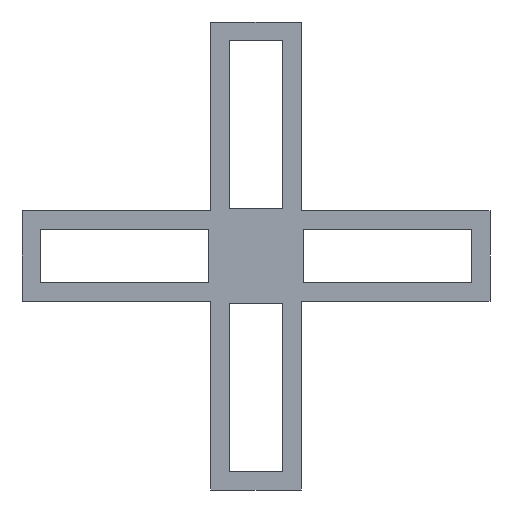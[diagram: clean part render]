
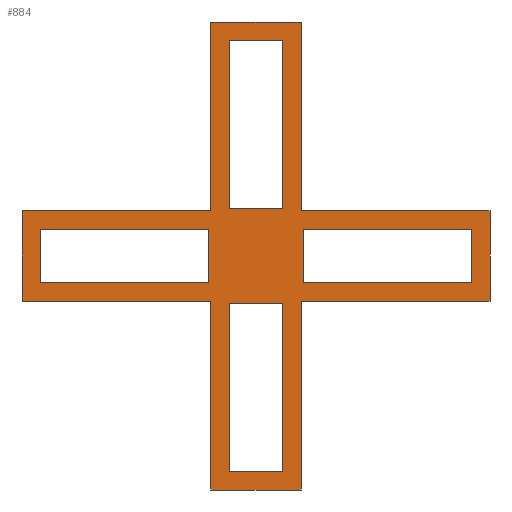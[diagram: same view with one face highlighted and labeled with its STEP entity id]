
A CAD part, front view. The second image highlights one B-rep face of the part: STEP entity #884.
In plain terms, the highlighted planar face has unit normal (0, -1, 0).
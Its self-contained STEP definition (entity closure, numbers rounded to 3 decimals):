
#20=FACE_BOUND('',#115,.T.);
#21=FACE_BOUND('',#116,.T.);
#22=FACE_BOUND('',#117,.T.);
#23=FACE_BOUND('',#118,.T.);
#66=FACE_OUTER_BOUND('',#114,.T.);
#114=EDGE_LOOP('',(#771,#772,#773,#774,#775,#776,#777,#778,#779,#780,#781,
#782));
#115=EDGE_LOOP('',(#783,#784,#785,#786));
#116=EDGE_LOOP('',(#787,#788,#789,#790));
#117=EDGE_LOOP('',(#791,#792,#793,#794));
#118=EDGE_LOOP('',(#795,#796,#797,#798));
#155=LINE('',#1227,#275);
#159=LINE('',#1236,#279);
#163=LINE('',#1244,#283);
#166=LINE('',#1251,#286);
#170=LINE('',#1259,#290);
#173=LINE('',#1265,#293);
#176=LINE('',#1270,#296);
#178=LINE('',#1274,#298);
#181=LINE('',#1280,#301);
#184=LINE('',#1286,#304);
#187=LINE('',#1293,#307);
#191=LINE('',#1301,#311);
#194=LINE('',#1307,#314);
#197=LINE('',#1312,#317);
#199=LINE('',#1316,#319);
#202=LINE('',#1322,#322);
#205=LINE('',#1328,#325);
#208=LINE('',#1335,#328);
#212=LINE('',#1343,#332);
#215=LINE('',#1349,#335);
#218=LINE('',#1354,#338);
#220=LINE('',#1358,#340);
#223=LINE('',#1364,#343);
#226=LINE('',#1370,#346);
#229=LINE('',#1375,#349);
#231=LINE('',#1379,#351);
#234=LINE('',#1385,#354);
#237=LINE('',#1390,#357);
#275=VECTOR('',#1008,10.);
#279=VECTOR('',#1014,10.);
#283=VECTOR('',#1020,10.);
#286=VECTOR('',#1025,10.);
#290=VECTOR('',#1031,10.);
#293=VECTOR('',#1036,10.);
#296=VECTOR('',#1041,10.);
#298=VECTOR('',#1045,10.);
#301=VECTOR('',#1050,10.);
#304=VECTOR('',#1055,10.);
#307=VECTOR('',#1060,10.);
#311=VECTOR('',#1066,10.);
#314=VECTOR('',#1071,10.);
#317=VECTOR('',#1076,10.);
#319=VECTOR('',#1080,10.);
#322=VECTOR('',#1085,10.);
#325=VECTOR('',#1090,10.);
#328=VECTOR('',#1095,10.);
#332=VECTOR('',#1101,10.);
#335=VECTOR('',#1106,10.);
#338=VECTOR('',#1111,10.);
#340=VECTOR('',#1115,10.);
#343=VECTOR('',#1120,10.);
#346=VECTOR('',#1125,10.);
#349=VECTOR('',#1130,10.);
#351=VECTOR('',#1134,10.);
#354=VECTOR('',#1139,10.);
#357=VECTOR('',#1144,10.);
#383=VERTEX_POINT('',#1225);
#384=VERTEX_POINT('',#1226);
#387=VERTEX_POINT('',#1234);
#388=VERTEX_POINT('',#1235);
#391=VERTEX_POINT('',#1243);
#393=VERTEX_POINT('',#1249);
#394=VERTEX_POINT('',#1250);
#397=VERTEX_POINT('',#1258);
#399=VERTEX_POINT('',#1264);
#401=VERTEX_POINT('',#1273);
#403=VERTEX_POINT('',#1279);
#405=VERTEX_POINT('',#1285);
#407=VERTEX_POINT('',#1291);
#408=VERTEX_POINT('',#1292);
#411=VERTEX_POINT('',#1300);
#413=VERTEX_POINT('',#1306);
#415=VERTEX_POINT('',#1315);
#417=VERTEX_POINT('',#1321);
#419=VERTEX_POINT('',#1327);
#421=VERTEX_POINT('',#1333);
#422=VERTEX_POINT('',#1334);
#425=VERTEX_POINT('',#1342);
#427=VERTEX_POINT('',#1348);
#429=VERTEX_POINT('',#1357);
#431=VERTEX_POINT('',#1363);
#433=VERTEX_POINT('',#1369);
#435=VERTEX_POINT('',#1378);
#437=VERTEX_POINT('',#1384);
#475=EDGE_CURVE('',#383,#384,#155,.T.);
#479=EDGE_CURVE('',#387,#388,#159,.T.);
#483=EDGE_CURVE('',#391,#387,#163,.T.);
#486=EDGE_CURVE('',#393,#394,#166,.T.);
#490=EDGE_CURVE('',#397,#393,#170,.T.);
#493=EDGE_CURVE('',#399,#397,#173,.T.);
#496=EDGE_CURVE('',#394,#399,#176,.T.);
#498=EDGE_CURVE('',#401,#391,#178,.T.);
#501=EDGE_CURVE('',#403,#401,#181,.T.);
#504=EDGE_CURVE('',#405,#403,#184,.T.);
#507=EDGE_CURVE('',#407,#408,#187,.T.);
#511=EDGE_CURVE('',#411,#407,#191,.T.);
#514=EDGE_CURVE('',#413,#411,#194,.T.);
#517=EDGE_CURVE('',#408,#413,#197,.T.);
#519=EDGE_CURVE('',#415,#405,#199,.T.);
#522=EDGE_CURVE('',#417,#415,#202,.T.);
#525=EDGE_CURVE('',#419,#417,#205,.T.);
#528=EDGE_CURVE('',#421,#422,#208,.T.);
#532=EDGE_CURVE('',#425,#421,#212,.T.);
#535=EDGE_CURVE('',#427,#425,#215,.T.);
#538=EDGE_CURVE('',#422,#427,#218,.T.);
#540=EDGE_CURVE('',#429,#419,#220,.T.);
#543=EDGE_CURVE('',#431,#429,#223,.T.);
#546=EDGE_CURVE('',#433,#431,#226,.T.);
#549=EDGE_CURVE('',#388,#433,#229,.T.);
#551=EDGE_CURVE('',#435,#383,#231,.T.);
#554=EDGE_CURVE('',#437,#435,#234,.T.);
#557=EDGE_CURVE('',#384,#437,#237,.T.);
#771=ORIENTED_EDGE('',*,*,#549,.F.);
#772=ORIENTED_EDGE('',*,*,#479,.F.);
#773=ORIENTED_EDGE('',*,*,#483,.F.);
#774=ORIENTED_EDGE('',*,*,#498,.F.);
#775=ORIENTED_EDGE('',*,*,#501,.F.);
#776=ORIENTED_EDGE('',*,*,#504,.F.);
#777=ORIENTED_EDGE('',*,*,#519,.F.);
#778=ORIENTED_EDGE('',*,*,#522,.F.);
#779=ORIENTED_EDGE('',*,*,#525,.F.);
#780=ORIENTED_EDGE('',*,*,#540,.F.);
#781=ORIENTED_EDGE('',*,*,#543,.F.);
#782=ORIENTED_EDGE('',*,*,#546,.F.);
#783=ORIENTED_EDGE('',*,*,#551,.F.);
#784=ORIENTED_EDGE('',*,*,#554,.F.);
#785=ORIENTED_EDGE('',*,*,#557,.F.);
#786=ORIENTED_EDGE('',*,*,#475,.F.);
#787=ORIENTED_EDGE('',*,*,#496,.F.);
#788=ORIENTED_EDGE('',*,*,#486,.F.);
#789=ORIENTED_EDGE('',*,*,#490,.F.);
#790=ORIENTED_EDGE('',*,*,#493,.F.);
#791=ORIENTED_EDGE('',*,*,#517,.F.);
#792=ORIENTED_EDGE('',*,*,#507,.F.);
#793=ORIENTED_EDGE('',*,*,#511,.F.);
#794=ORIENTED_EDGE('',*,*,#514,.F.);
#795=ORIENTED_EDGE('',*,*,#538,.F.);
#796=ORIENTED_EDGE('',*,*,#528,.F.);
#797=ORIENTED_EDGE('',*,*,#532,.F.);
#798=ORIENTED_EDGE('',*,*,#535,.F.);
#841=PLANE('',#941);
#884=ADVANCED_FACE('',(#66,#20,#21,#22,#23),#841,.F.);
#941=AXIS2_PLACEMENT_3D('',#1393,#1148,#1149);
#1008=DIRECTION('',(-1.,0.,0.));
#1014=DIRECTION('',(1.,0.,0.));
#1020=DIRECTION('',(0.,0.,-1.));
#1025=DIRECTION('',(0.,0.,1.));
#1031=DIRECTION('',(1.,0.,0.));
#1036=DIRECTION('',(0.,0.,-1.));
#1041=DIRECTION('',(-1.,0.,0.));
#1045=DIRECTION('',(1.,0.,0.));
#1050=DIRECTION('',(0.,0.,1.));
#1055=DIRECTION('',(1.,0.,0.));
#1060=DIRECTION('',(-1.,0.,0.));
#1066=DIRECTION('',(0.,0.,1.));
#1071=DIRECTION('',(1.,0.,0.));
#1076=DIRECTION('',(0.,0.,-1.));
#1080=DIRECTION('',(0.,0.,1.));
#1085=DIRECTION('',(-1.,0.,0.));
#1090=DIRECTION('',(0.,0.,1.));
#1095=DIRECTION('',(0.,0.,-1.));
#1101=DIRECTION('',(-1.,0.,0.));
#1106=DIRECTION('',(0.,0.,1.));
#1111=DIRECTION('',(1.,0.,0.));
#1115=DIRECTION('',(-1.,0.,0.));
#1120=DIRECTION('',(0.,0.,-1.));
#1125=DIRECTION('',(-1.,0.,0.));
#1130=DIRECTION('',(0.,0.,-1.));
#1134=DIRECTION('',(0.,0.,1.));
#1139=DIRECTION('',(1.,0.,0.));
#1144=DIRECTION('',(0.,0.,-1.));
#1148=DIRECTION('center_axis',(0.,1.,0.));
#1149=DIRECTION('ref_axis',(0.,0.,-1.));
#1225=CARTESIAN_POINT('',(12.8,0.,1.6));
#1226=CARTESIAN_POINT('',(2.8,0.,1.6));
#1227=CARTESIAN_POINT('',(12.8,0.,1.6));
#1234=CARTESIAN_POINT('',(2.7,0.,2.7));
#1235=CARTESIAN_POINT('',(13.9,0.,2.7));
#1236=CARTESIAN_POINT('',(2.7,0.,2.7));
#1243=CARTESIAN_POINT('',(2.7,0.,13.9));
#1244=CARTESIAN_POINT('',(2.7,0.,13.9));
#1249=CARTESIAN_POINT('',(1.6,0.,2.8));
#1250=CARTESIAN_POINT('',(1.6,0.,12.8));
#1251=CARTESIAN_POINT('',(1.6,0.,2.8));
#1258=CARTESIAN_POINT('',(-1.6,0.,2.8));
#1259=CARTESIAN_POINT('',(-1.6,0.,2.8));
#1264=CARTESIAN_POINT('',(-1.6,0.,12.8));
#1265=CARTESIAN_POINT('',(-1.6,0.,12.8));
#1270=CARTESIAN_POINT('',(0.,0.,12.8));
#1273=CARTESIAN_POINT('',(-2.7,0.,13.9));
#1274=CARTESIAN_POINT('',(-2.7,0.,13.9));
#1279=CARTESIAN_POINT('',(-2.7,0.,2.7));
#1280=CARTESIAN_POINT('',(-2.7,0.,2.7));
#1285=CARTESIAN_POINT('',(-13.9,0.,2.7));
#1286=CARTESIAN_POINT('',(-13.9,0.,2.7));
#1291=CARTESIAN_POINT('',(-2.8,0.,1.6));
#1292=CARTESIAN_POINT('',(-12.8,0.,1.6));
#1293=CARTESIAN_POINT('',(-2.8,0.,1.6));
#1300=CARTESIAN_POINT('',(-2.8,0.,-1.6));
#1301=CARTESIAN_POINT('',(-2.8,0.,-1.6));
#1306=CARTESIAN_POINT('',(-12.8,0.,-1.6));
#1307=CARTESIAN_POINT('',(-12.8,0.,-1.6));
#1312=CARTESIAN_POINT('',(-12.8,0.,0.));
#1315=CARTESIAN_POINT('',(-13.9,0.,-2.7));
#1316=CARTESIAN_POINT('',(-13.9,0.,-2.7));
#1321=CARTESIAN_POINT('',(-2.7,0.,-2.7));
#1322=CARTESIAN_POINT('',(-2.7,0.,-2.7));
#1327=CARTESIAN_POINT('',(-2.7,0.,-13.9));
#1328=CARTESIAN_POINT('',(-2.7,0.,-13.9));
#1333=CARTESIAN_POINT('',(-1.6,0.,-2.8));
#1334=CARTESIAN_POINT('',(-1.6,0.,-12.8));
#1335=CARTESIAN_POINT('',(-1.6,0.,-2.8));
#1342=CARTESIAN_POINT('',(1.6,0.,-2.8));
#1343=CARTESIAN_POINT('',(1.6,0.,-2.8));
#1348=CARTESIAN_POINT('',(1.6,0.,-12.8));
#1349=CARTESIAN_POINT('',(1.6,0.,-12.8));
#1354=CARTESIAN_POINT('',(0.,0.,-12.8));
#1357=CARTESIAN_POINT('',(2.7,0.,-13.9));
#1358=CARTESIAN_POINT('',(2.7,0.,-13.9));
#1363=CARTESIAN_POINT('',(2.7,0.,-2.7));
#1364=CARTESIAN_POINT('',(2.7,0.,-2.7));
#1369=CARTESIAN_POINT('',(13.9,0.,-2.7));
#1370=CARTESIAN_POINT('',(13.9,0.,-2.7));
#1375=CARTESIAN_POINT('',(13.9,0.,0.));
#1378=CARTESIAN_POINT('',(12.8,0.,-1.6));
#1379=CARTESIAN_POINT('',(12.8,0.,-1.6));
#1384=CARTESIAN_POINT('',(2.8,0.,-1.6));
#1385=CARTESIAN_POINT('',(2.8,0.,-1.6));
#1390=CARTESIAN_POINT('',(2.8,0.,1.6));
#1393=CARTESIAN_POINT('Origin',(6.95,0.,-6.95));
